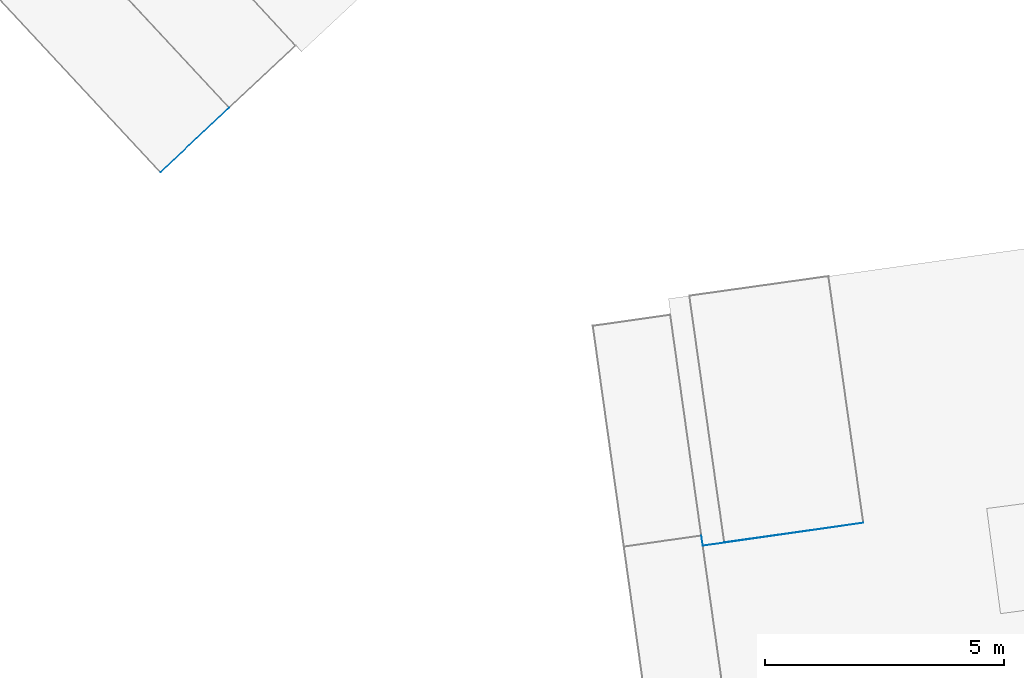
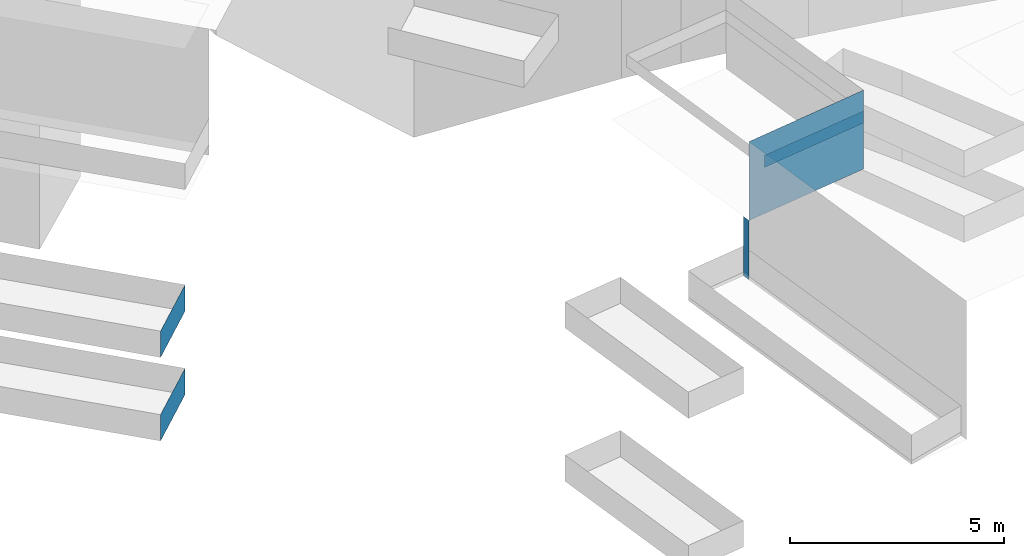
# Not in any storey, part 17 of 136: 8 walls.
"""IFC2X3 building model written with IfcOpenShell, lengths in metres."""

from ifc_helpers import new_model, entity, si_unit, converted_unit, frame, origin, place, context, subcontext, project, spatial, face_set, surface_model, element, save


model = new_model("IFC2X3")

# Units and contexts
model_context = context("Model", 3, precision=1e-05, world=origin())
body_context = subcontext(model_context, "Body", "Model", "MODEL_VIEW")
ifc_project = project(units=[converted_unit("PLANEANGLEUNIT", "DEGREE", entity("IfcRatioMeasure", 0.0174532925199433), si_unit("PLANEANGLEUNIT", "RADIAN"), dimensions=[0, 0, 0, 0, 0, 0, 0]), si_unit("AREAUNIT", "SQUARE_METRE"), si_unit("LENGTHUNIT", "METRE")], contexts=[model_context])

# Site, building
site_placement = place(None, origin())
site = spatial("IfcSite", under=ifc_project, at=site_placement, Name="_site", CompositionType="ELEMENT")
building_1_placement = place(site_placement, origin())
building_1 = spatial("IfcBuilding", under=site, at=building_1_placement, Name="_building", CompositionType="ELEMENT")

# Walls
for number, where, name in (
    (1, (0.0, 0.0, 0.0), "Wall"),
    (2, (0.0, 0.0, 0.0), "Wall"),
):
    element("IfcWall", number, at=place(building_1_placement, frame(where)), inside=building_1, Name=name, context=body_context, shape_type="SurfaceModel", body=[
        surface_model("IfcFaceBasedSurfaceModel", [(148.62, -47.07, 45.12), (147.18, -48.42, 45.12), (147.18, -48.42, 45.87), (148.62, -47.07, 45.87)], [face_set([[[0, 1, 2, 3]]])]),
    ])
for number, where, name in (
    (3, (0.0, 0.0, 0.0), "Wall"),
    (4, (0.0, 0.0, 0.0), "Wall"),
):
    element("IfcWall", number, at=place(building_1_placement, frame(where)), inside=building_1, Name=name, context=body_context, shape_type="SurfaceModel", body=[
        surface_model("IfcFaceBasedSurfaceModel", [(148.62, -47.07, 42.74), (147.18, -48.42, 42.74), (147.18, -48.42, 43.49), (148.62, -47.07, 43.49)], [face_set([[[0, 1, 2, 3]]])]),
    ])

# Building
building_2_placement = place(site_placement, origin())
building_2 = spatial("IfcBuilding", under=site, at=building_2_placement, Name="_building", CompositionType="ELEMENT")

# Walls
wall_1_placement = place(building_2_placement, origin())
element("IfcWall", 5, at=wall_1_placement, inside=building_2, Name="Wall", context=body_context, shape_type="SurfaceModel", body=[
    surface_model("IfcFaceBasedSurfaceModel", [(158.53, -56.24, 49.79), (158.5, -56.03, 49.79), (158.5, -56.03, 48.1), (158.53, -56.24, 48.1)], [face_set([[[0, 1, 2, 3]]])]),
])
wall_2_placement = place(building_2_placement, origin())
element("IfcWall", 6, at=wall_2_placement, inside=building_2, Name="Wall", context=body_context, shape_type="SurfaceModel", body=[
    surface_model("IfcFaceBasedSurfaceModel", [(158.53, -56.24, 52.04), (161.89, -55.76, 52.04), (161.89, -55.76, 49.79), (158.53, -56.24, 49.79)], [face_set([[[0, 1, 2, 3]]])]),
])
for number, where, name in (
    (7, (0.0, 0.0, 0.0), "Wall"),
    (8, (0.0, 0.0, 0.0), "Wall"),
):
    element("IfcWall", number, at=place(building_2_placement, frame(where)), inside=building_2, Name=name, context=body_context, shape_type="SurfaceModel", body=[
        surface_model("IfcFaceBasedSurfaceModel", [(161.89, -55.76, 51.45), (158.98, -56.17, 51.45), (158.98, -56.17, 51.1), (161.89, -55.76, 51.1)], [face_set([[[0, 1, 2, 3]]])]),
    ])

save(model, "model.ifc")
